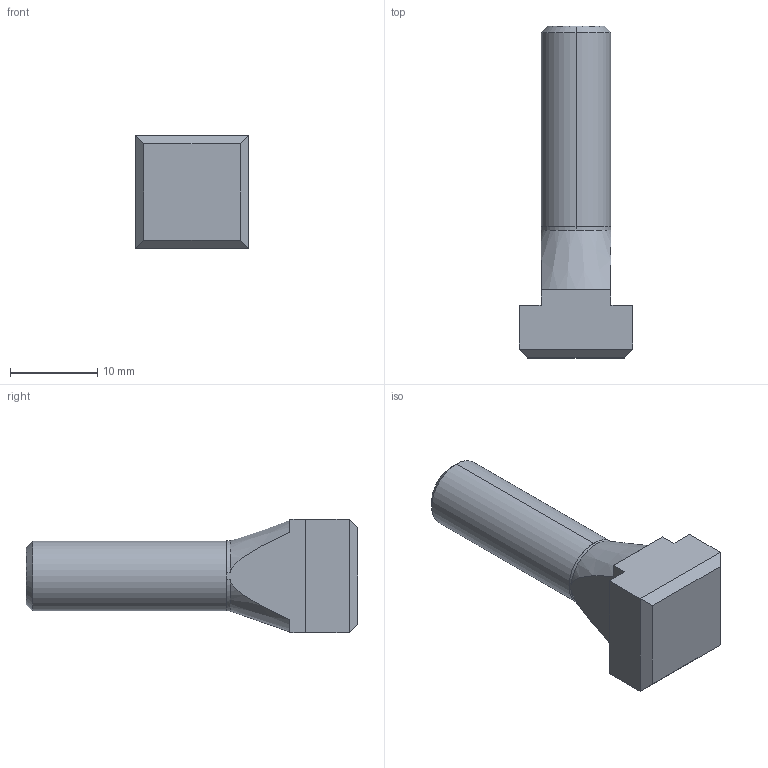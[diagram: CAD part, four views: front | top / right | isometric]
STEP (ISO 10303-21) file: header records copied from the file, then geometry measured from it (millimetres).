
FILE_DESCRIPTION (( 'STEP AP203' ), '1' );
FILE_NAME ('Wiberger-din787_8-m8x32.step', '2016-07-01T13:16:51', ( 'Magnus' ), ( 'Microsoft' ), 'SwSTEP 2.0', 'SolidWorks 2016', '' );
FILE_SCHEMA (( 'CONFIG_CONTROL_DESIGN' ));
Length unit declared in the file: millimetre
Products named in the file (1): Wiberger-din787_8-m8x32
Bounding box: 13 x 38 x 13 mm (x, y, z)
Volume: 2848.9 mm3; surface area: 1446.9 mm2
Topology: 1 solids, 1 shells, 28 faces, 70 edges, 44 vertices
Faces by surface type: plane 18, cone 5, cylinder 5
Entity records: 961 total; most frequent: CARTESIAN_POINT 215, ORIENTED_EDGE 140, DIRECTION 138, EDGE_CURVE 70, AXIS2_PLACEMENT_3D 47, LINE 44, VERTEX_POINT 44, VECTOR 44
